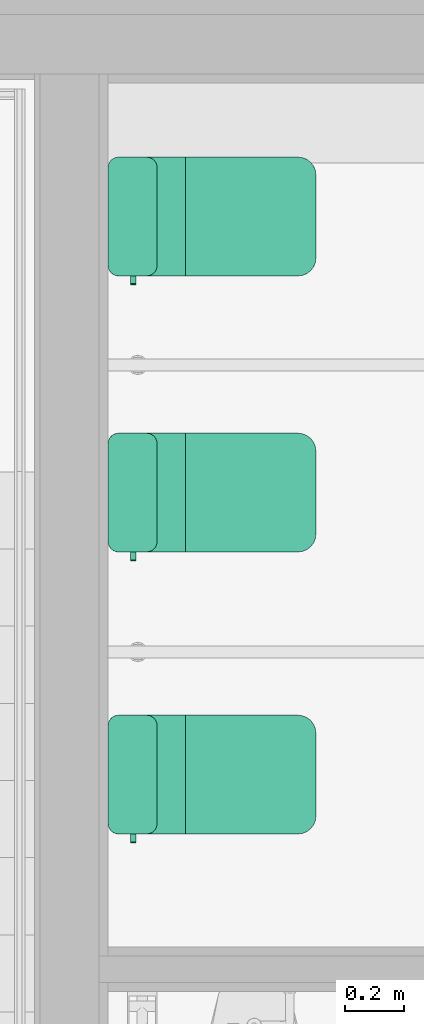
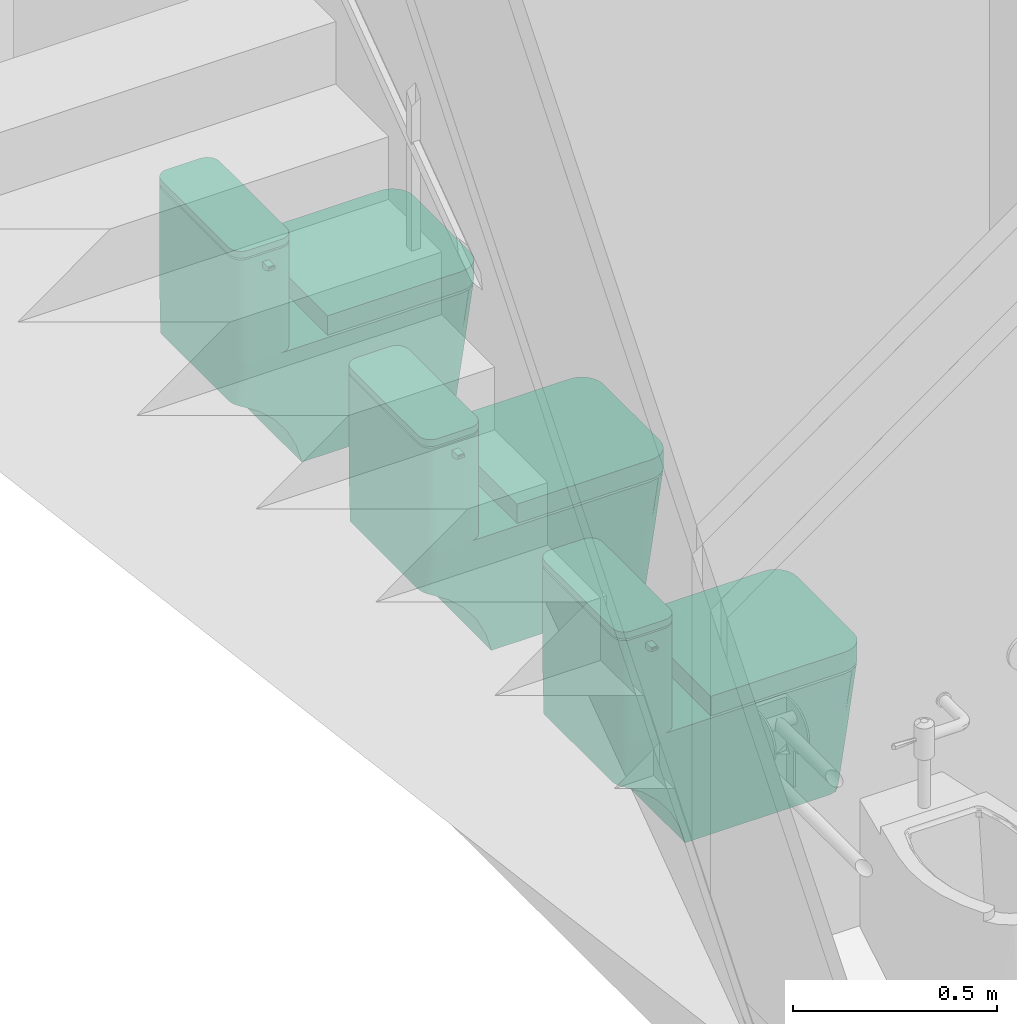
# One storey, part 68 of 74: 3 flow terminals.
"""IFC2X3 building model written with IfcOpenShell, lengths in millimetres."""

import ifcopenshell
import ifcopenshell.guid

model = None  # the IFC model being written
_history = None  # IfcOwnerHistory: only IFC2X3 demands one
_inside = {}  # id of a spatial element -> (the spatial element, [elements in it])
_under = {}  # id of a project, library or spatial element -> (it, [spatial elements below it])
_declared = {}  # id of a project -> (the project, [libraries it declares])
_typed = {}  # id of a type object -> (the type object, [elements of that type])
_made_of = {}  # id of a material, layer set ... -> (it, [elements and type objects made of it])


def new_model(schema):
    """Start an empty IFC model of exactly this schema.

    Asked for "IFC4X3", IfcOpenShell would pick the latest addendum, in which some entities
    have other attributes; the version numbers below select the first issue.
    IFC2X3 requires an IfcOwnerHistory on every rooted entity: one is made here for all.
    """
    global model, _history
    if schema == "IFC4X3":
        model = ifcopenshell.file(schema_version=(4, 3, 0, 0))
    else:
        model = ifcopenshell.file(schema=schema)
    _inside.clear()
    _under.clear()
    _declared.clear()
    _typed.clear()
    _made_of.clear()
    _history = None
    if model.schema == "IFC2X3":
        org = make("IfcOrganization", Name="unknown")
        user = make(
            "IfcPersonAndOrganization",
            ThePerson=make("IfcPerson", FamilyName="unknown"),
            TheOrganization=org,
        )
        app = make(
            "IfcApplication",
            ApplicationDeveloper=org,
            Version="unknown",
            ApplicationFullName="unknown",
            ApplicationIdentifier="unknown",
        )
        _history = make(
            "IfcOwnerHistory",
            OwningUser=user,
            OwningApplication=app,
            ChangeAction="ADDED",
            CreationDate=0,
        )
    return model


def make(cls, **values):
    """One entity of the class cls with the attributes given. An attribute that is None is left unset."""
    return model.create_entity(
        cls, **{name: value for name, value in values.items() if value is not None}
    )


def entity(cls, *values):
    """Any entity or typed value of the class cls, its attributes in the order of the schema. None: left unset."""
    e = model.create_entity(cls)
    for i, value in enumerate(values):
        if value is not None:
            e[i] = value
    return e


def rooted(cls, **values):
    """An entity with a GlobalId (a new one), such as an element, a storey or a relation."""
    return make(cls, GlobalId=ifcopenshell.guid.new(), OwnerHistory=_history, **values)


def si_unit(unit_type, name, prefix=None):
    """IfcSIUnit, for example si_unit("LENGTHUNIT", "METRE", prefix="MILLI")."""
    return make("IfcSIUnit", UnitType=unit_type, Prefix=prefix, Name=name)


def converted_unit(unit_type, name, factor, base, dimensions=None, offset=None):
    """IfcConversionBasedUnit, such as the inch: factor (a typed value) times the base unit."""
    return make(
        "IfcConversionBasedUnit"
        if offset is None
        else "IfcConversionBasedUnitWithOffset",
        ConversionOffset=offset,
        Dimensions=None
        if dimensions is None
        else entity("IfcDimensionalExponents", *dimensions),
        UnitType=unit_type,
        Name=name,
        ConversionFactor=make(
            "IfcMeasureWithUnit", ValueComponent=factor, UnitComponent=base
        ),
    )


def derived_unit(unit_type, elements):
    """IfcDerivedUnit: a product of units, each with its exponent."""
    return make(
        "IfcDerivedUnit",
        Elements=[
            make("IfcDerivedUnitElement", Unit=unit, Exponent=power)
            for unit, power in elements
        ],
        UnitType=unit_type,
    )


def assignment(units):
    """IfcUnitAssignment: the units of a project."""
    return None if units is None else make("IfcUnitAssignment", Units=units)


def point(xyz):
    """IfcCartesianPoint."""
    return None if xyz is None else make("IfcCartesianPoint", Coordinates=xyz)


def direction(xyz):
    """IfcDirection."""
    return None if xyz is None else make("IfcDirection", DirectionRatios=xyz)


def frame(location, z_axis=None, x_axis=None):
    """IfcAxis2Placement3D, a coordinate frame: its origin and axes. An axis left out is left unset."""
    return make(
        "IfcAxis2Placement3D",
        Location=point(location),
        Axis=direction(z_axis),
        RefDirection=direction(x_axis),
    )


def origin():
    """The frame at (0, 0, 0) with its axes left unset."""
    return frame((0.0, 0.0, 0.0))


def place(relative_to, where):
    """IfcLocalPlacement: puts the frame where relative to a parent placement (None: the world)."""
    return make(
        "IfcLocalPlacement", PlacementRelTo=relative_to, RelativePlacement=where
    )


def context(
    kind, dimensions, precision=None, world=None, true_north=None, identifier=None
):
    """IfcGeometricRepresentationContext, for example the 3D "Model" context."""
    return make(
        "IfcGeometricRepresentationContext",
        ContextIdentifier=identifier,
        ContextType=kind,
        CoordinateSpaceDimension=dimensions,
        Precision=precision,
        WorldCoordinateSystem=world,
        TrueNorth=true_north,
    )


def subcontext(parent, identifier, kind, view, scale=None):
    """IfcGeometricRepresentationSubContext, for example "Body" below "Model"."""
    return make(
        "IfcGeometricRepresentationSubContext",
        ContextIdentifier=identifier,
        ContextType=kind,
        ParentContext=parent,
        TargetScale=scale,
        TargetView=view,
    )


def project(units=None, contexts=None):
    """IfcProject with its units and contexts."""
    return rooted(
        "IfcProject",
        Name="project",
        RepresentationContexts=contexts,
        UnitsInContext=assignment(units),
    )


def spatial(cls, under=None, at=None, **own):
    """A site, building, storey or space (cls), placed at a placement, below another one or the project."""
    s = rooted(cls, ObjectPlacement=at, **own)
    if under is not None:
        _under.setdefault(under.id(), (under, []))[1].append(s)
    return s


def faces_of(points, faces, orient=None, outer=None):
    """IfcFace entities. A face is a list of loops; a loop is a list of indices into points, from 0.

    orient and outer hold one flag for each loop. By default every Orientation is true, the
    first loop of a face is its IfcFaceOuterBound and the others are IfcFaceBound.
    """
    made = []
    for i, loops in enumerate(faces):
        bounds = []
        for j, loop in enumerate(loops):
            is_outer = j == 0 if outer is None else outer[i][j]
            bounds.append(
                make(
                    "IfcFaceOuterBound" if is_outer else "IfcFaceBound",
                    Bound=make("IfcPolyLoop", Polygon=[points[k] for k in loop]),
                    Orientation=True if orient is None else orient[i][j],
                )
            )
        made.append(make("IfcFace", Bounds=bounds))
    return made


def faceted_brep(points, faces, orient=None, outer=None, voids=None):
    """IfcFacetedBrep: a solid bounded by flat faces; with voids (closed shells), ...WithVoids."""
    shared = [point(p) for p in points]
    hull = make("IfcClosedShell", CfsFaces=faces_of(shared, faces, orient, outer))
    if voids is None:
        return make("IfcFacetedBrep", Outer=hull)
    return make(
        "IfcFacetedBrepWithVoids",
        Outer=hull,
        Voids=[
            make(cls, CfsFaces=faces_of(shared, fs, o, b)) for cls, fs, o, b in voids
        ],
    )


def shape(context_of_items, identifier, shape_type, items):
    """IfcShapeRepresentation: the items that make up one representation, for example the "Body"."""
    return make(
        "IfcShapeRepresentation",
        ContextOfItems=context_of_items,
        RepresentationIdentifier=identifier,
        RepresentationType=shape_type,
        Items=items,
    )


def source(mapping_origin, context_of_items, identifier, shape_type, items):
    """IfcRepresentationMap: a shape defined once, which mapped items show again and again."""
    return make(
        "IfcRepresentationMap",
        MappingOrigin=mapping_origin,
        MappedRepresentation=shape(context_of_items, identifier, shape_type, items),
    )


def transform(
    local_origin,
    x_axis=None,
    y_axis=None,
    z_axis=None,
    scale=None,
    scale2=None,
    scale3=None,
    uniform=True,
):
    """IfcCartesianTransformationOperator3D, or its non-uniform kind. x_axis, y_axis, z_axis: its Axis1, 2, 3."""
    if uniform:
        return make(
            "IfcCartesianTransformationOperator3D",
            Axis1=direction(x_axis),
            Axis2=direction(y_axis),
            LocalOrigin=point(local_origin),
            Scale=scale,
            Axis3=direction(z_axis),
        )
    return make(
        "IfcCartesianTransformationOperator3DnonUniform",
        Axis1=direction(x_axis),
        Axis2=direction(y_axis),
        LocalOrigin=point(local_origin),
        Scale=scale,
        Axis3=direction(z_axis),
        Scale2=scale2,
        Scale3=scale3,
    )


def mapped(mapping_source, mapping_target):
    """IfcMappedItem: shows the shape of a source again, moved by a transform."""
    return make(
        "IfcMappedItem", MappingSource=mapping_source, MappingTarget=mapping_target
    )


def material(Name=None, Category=None):
    """IfcMaterial."""
    return make("IfcMaterial", Name=Name, Category=Category)


def material_list(materials):
    """IfcMaterialList."""
    return make("IfcMaterialList", Materials=materials)


def made_of(thing, what):
    """Note that an element or type object is made of a material, layer set ...; save() writes the relation."""
    if what is not None:
        _made_of.setdefault(what.id(), (what, []))[1].append(thing)
    return thing


def type_object(cls, material=None, **own):
    """A type object (cls), such as IfcWallType, which elements share."""
    return made_of(rooted(cls, **own), material)


def type_shapes(of_type, sources):
    """Give a type object the sources (RepresentationMaps) that its elements show as mapped items."""
    of_type.RepresentationMaps = sources


def element(
    cls,
    number,
    at=None,
    inside=None,
    cuts=None,
    type_object=None,
    material=None,
    context=None,
    identifier="Body",
    shape_type=None,
    held_by="IfcProductDefinitionShape",
    body=None,
    shapes=None,
    **own,
):
    """One element of the class cls, such as IfcWall. Its Tag is "e" and its number.

    at: its placement. inside: the storey or other place that contains it. cuts: it is an
    opening in that element (IfcRelVoidsElement). A single representation is given by context,
    identifier, shape_type and body (its items); several are given by shapes. held_by: the class
    of the entity that holds the representations. save() writes the other relations.
    """
    e = rooted(cls, Tag="e%d" % number, ObjectPlacement=at, **own)
    if body is not None:
        shapes = [shape(context, identifier, shape_type, body)]
    if shapes is not None:
        e.Representation = make(held_by, Representations=shapes)
    if inside is not None:
        _inside.setdefault(inside.id(), (inside, []))[1].append(e)
    if cuts is not None:
        rooted(
            "IfcRelVoidsElement", RelatingBuildingElement=cuts, RelatedOpeningElement=e
        )
    if type_object is not None:
        _typed.setdefault(type_object.id(), (type_object, []))[1].append(e)
    return made_of(e, material)


def aggregate(whole, parts):
    """IfcRelAggregates: a whole, such as a stair, and the parts it consists of."""
    return rooted("IfcRelAggregates", RelatingObject=whole, RelatedObjects=parts)


def save(model, path):
    """Write the relations noted so far, then the file.

    IfcRelAggregates (storeys below a building ...), IfcRelContainedInSpatialStructure (elements
    in a storey), IfcRelDefinesByType, IfcRelAssociatesMaterial and IfcRelDeclares: one each for
    every whole, place, type object, material and project.
    """
    for whole, parts in _under.values():
        aggregate(whole, parts)
    for where, things in _inside.values():
        rooted(
            "IfcRelContainedInSpatialStructure",
            RelatedElements=things,
            RelatingStructure=where,
        )
    for kind, things in _typed.values():
        rooted("IfcRelDefinesByType", RelatedObjects=things, RelatingType=kind)
    for what, things in _made_of.values():
        rooted("IfcRelAssociatesMaterial", RelatedObjects=things, RelatingMaterial=what)
    for by, libraries in _declared.values():
        rooted("IfcRelDeclares", RelatingContext=by, RelatedDefinitions=libraries)
    model.write(path)


model = new_model("IFC2X3")

# Units and contexts
model_context = context("Model", 3, precision=0.01, world=origin(), true_north=direction((6.123031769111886e-17, 1.0)))
body_context = subcontext(model_context, "Body", "Model", "MODEL_VIEW")
ifc_project = project(units=[si_unit("LENGTHUNIT", "METRE", prefix="MILLI"), si_unit("AREAUNIT", "SQUARE_METRE"), si_unit("VOLUMEUNIT", "CUBIC_METRE"), converted_unit("PLANEANGLEUNIT", "DEGREE", entity("IfcRatioMeasure", 0.017453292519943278), si_unit("PLANEANGLEUNIT", "RADIAN"), dimensions=[0, 0, 0, 0, 0, 0, 0]), si_unit("MASSUNIT", "GRAM", prefix="KILO"), derived_unit("MASSDENSITYUNIT", [(si_unit("MASSUNIT", "GRAM", prefix="KILO"), 1), (si_unit("LENGTHUNIT", "METRE"), -3)]), derived_unit("MOMENTOFINERTIAUNIT", [(si_unit("LENGTHUNIT", "METRE"), 4)]), si_unit("TIMEUNIT", "SECOND"), si_unit("FREQUENCYUNIT", "HERTZ"), si_unit("THERMODYNAMICTEMPERATUREUNIT", "DEGREE_CELSIUS"), derived_unit("THERMALTRANSMITTANCEUNIT", [(si_unit("MASSUNIT", "GRAM", prefix="KILO"), 1), (si_unit("THERMODYNAMICTEMPERATUREUNIT", "KELVIN"), -1), (si_unit("TIMEUNIT", "SECOND"), -3)]), derived_unit("VOLUMETRICFLOWRATEUNIT", [(si_unit("LENGTHUNIT", "METRE"), 3), (si_unit("TIMEUNIT", "SECOND"), -1)]), derived_unit("MASSFLOWRATEUNIT", [(si_unit("MASSUNIT", "GRAM", prefix="KILO"), 1), (si_unit("TIMEUNIT", "SECOND"), -1)]), derived_unit("ROTATIONALFREQUENCYUNIT", [(si_unit("TIMEUNIT", "SECOND"), -1)]), si_unit("ELECTRICCURRENTUNIT", "AMPERE"), si_unit("ELECTRICVOLTAGEUNIT", "VOLT"), si_unit("POWERUNIT", "WATT"), si_unit("FORCEUNIT", "NEWTON", prefix="KILO"), si_unit("ILLUMINANCEUNIT", "LUX"), si_unit("LUMINOUSFLUXUNIT", "LUMEN"), si_unit("LUMINOUSINTENSITYUNIT", "CANDELA"), derived_unit("USERDEFINED", [(si_unit("MASSUNIT", "GRAM", prefix="KILO"), -1), (si_unit("LENGTHUNIT", "METRE"), -2), (si_unit("TIMEUNIT", "SECOND"), 3), (si_unit("LUMINOUSFLUXUNIT", "LUMEN"), 1)]), derived_unit("SOUNDPOWERUNIT", [(si_unit("MASSUNIT", "GRAM", prefix="KILO"), 1), (si_unit("LENGTHUNIT", "METRE"), 2), (si_unit("TIMEUNIT", "SECOND"), -3)]), derived_unit("SOUNDPRESSUREUNIT", [(si_unit("MASSUNIT", "GRAM", prefix="KILO"), 1), (si_unit("LENGTHUNIT", "METRE"), -1), (si_unit("TIMEUNIT", "SECOND"), -2)]), derived_unit("LINEARVELOCITYUNIT", [(si_unit("LENGTHUNIT", "METRE"), 1), (si_unit("TIMEUNIT", "SECOND"), -1)]), si_unit("PRESSUREUNIT", "PASCAL"), derived_unit("USERDEFINED", [(si_unit("LENGTHUNIT", "METRE"), -2), (si_unit("MASSUNIT", "GRAM", prefix="KILO"), 1), (si_unit("TIMEUNIT", "SECOND"), -2)]), derived_unit("LINEARFORCEUNIT", [(si_unit("MASSUNIT", "GRAM", prefix="KILO"), 1), (si_unit("LENGTHUNIT", "METRE"), 1), (si_unit("TIMEUNIT", "SECOND"), -2), (si_unit("LENGTHUNIT", "METRE"), -1)]), derived_unit("PLANARFORCEUNIT", [(si_unit("MASSUNIT", "GRAM", prefix="KILO"), 1), (si_unit("LENGTHUNIT", "METRE"), 1), (si_unit("TIMEUNIT", "SECOND"), -2), (si_unit("LENGTHUNIT", "METRE"), -2)])], contexts=[model_context])

# Site, building, storey, space
site_placement = place(None, frame((-14167.972527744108, -657.2125860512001, 0.0)))
site = spatial("IfcSite", under=ifc_project, at=site_placement, Name="Default", CompositionType="ELEMENT")
building_placement = place(site_placement, origin())
building = spatial("IfcBuilding", under=site, at=building_placement, Name="Sample Building", CompositionType="ELEMENT")
storey_placement = place(building_placement, frame((0.0, 0.0, 4800.0)))
storey = spatial("IfcBuildingStorey", under=building, at=storey_placement, Name="지상 2층", CompositionType="ELEMENT", Elevation=4800.000000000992)
space_placement = place(storey_placement, origin())
space = spatial("IfcSpace", under=storey, at=space_placement, Name="188", CompositionType="ELEMENT", InteriorOrExteriorSpace="INTERNAL")

# Flow terminals
ifc_material_1 = material(Name="KBIMS-스테인리스 스틸_도금")
ifc_material_2 = material(Name="KBIMS-도기")
ifc_material_list_1 = material_list([ifc_material_1, ifc_material_2, ifc_material_2])
ifc_material_list_2 = material_list([ifc_material_1, ifc_material_2, ifc_material_2])
distribution_element_type = type_object("IfcDistributionElementType", Name="PF127-서양식 탱크일체형:PF127-서양식 탱크일체형", material=ifc_material_list_2)
shared_shape = source(origin(), body_context, "Body", "Brep", [
    faceted_brep([(-200.0, -93.78427766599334, 671.547634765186), (-226.3198216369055, -93.78427766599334, 671.5476347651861), (-228.9221007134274, -93.78427766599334, 670.469735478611), (-230.0, -93.78427766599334, 667.8674564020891), (-230.0, -93.78427766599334, 663.5153317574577), (-229.51628854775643, -93.78427766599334, 661.8557929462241), (-228.21666089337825, -93.78427766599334, 660.71605008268), (-215.9758797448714, -93.78427766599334, 655.0080800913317), (-211.766557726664, -93.78427766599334, 653.5792078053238), (-207.34774888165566, -93.78427766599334, 653.095269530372), (-200.0, -93.78427766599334, 653.095269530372), (-230.0, -75.66503821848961, 663.5153317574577), (-230.0, -75.66503821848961, 667.8674564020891), (-228.9221007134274, -75.66503821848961, 670.469735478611), (-226.31982163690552, -75.66503821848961, 671.5476347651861), (-200.0, -75.66503821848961, 671.547634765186), (-200.0, -75.66503821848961, 653.095269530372), (-207.34774888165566, -75.66503821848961, 653.095269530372), (-211.766557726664, -75.66503821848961, 653.5792078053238), (-215.97587974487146, -75.66503821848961, 655.0080800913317), (-228.21666089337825, -75.66503821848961, 660.71605008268), (-229.51628854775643, -75.66503821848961, 661.8557929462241)], [[[0, 1, 2, 3, 4, 5, 6, 7, 8, 9, 10]], [[11, 12, 13, 14, 15, 16, 17, 18, 19, 20, 21]], [[1, 14, 13, 2]], [[13, 12, 3, 2]], [[4, 3, 12, 11]], [[4, 11, 21, 5]], [[21, 20, 6, 5]], [[7, 6, 20, 19]], [[7, 19, 18, 8]], [[18, 17, 9, 8]], [[10, 9, 17, 16]], [[0, 10, 16, 15]], [[1, 0, 15, 14]]]),
    faceted_brep([(140.0, -700.0, 445.0), (155.52914270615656, -697.9555495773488, 445.0), (170.0, -691.9615242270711, 445.0), (182.42640687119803, -682.4264068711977, 445.0), (191.96152422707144, -670.0, 445.0), (197.9555495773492, -655.5291427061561, 445.0), (200.0, -640.0, 445.0), (200.0, -260.0, 445.0), (-200.0, -260.0, 445.0), (-200.0, -640.0, 445.0), (-197.95554957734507, -655.5291427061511, 445.0), (-191.96152422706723, -670.0, 445.0), (-182.42640687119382, -682.4264068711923, 445.0), (-170.0, -691.9615242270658, 445.0), (-155.52914270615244, -697.9555495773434, 445.0), (-140.0, -700.0, 445.0), (-200.0, -640.0, 386.96747142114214), (-200.0, -260.0, 386.96747142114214), (200.0, -260.0, 386.96747142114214), (200.0, -640.0, 386.96747142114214), (197.9555495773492, -655.5291427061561, 386.96747142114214), (191.96152422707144, -670.0, 386.96747142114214), (182.42640687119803, -682.4264068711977, 386.96747142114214), (170.0, -691.9615242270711, 386.96747142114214), (155.52914270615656, -697.9555495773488, 386.96747142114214), (140.0, -700.0, 386.96747142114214), (-140.0, -700.0, 386.96747142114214), (-155.52914270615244, -697.9555495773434, 386.96747142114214), (-170.0, -691.9615242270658, 386.96747142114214), (-182.42640687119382, -682.4264068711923, 386.96747142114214), (-191.96152422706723, -670.0, 386.96747142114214), (-197.95554957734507, -655.5291427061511, 386.96747142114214)], [[[0, 1, 2, 3, 4, 5, 6, 7, 8, 9, 10, 11, 12, 13, 14, 15]], [[16, 17, 18, 19, 20, 21, 22, 23, 24, 25, 26, 27, 28, 29, 30, 31]], [[1, 24, 23, 2]], [[2, 23, 22, 3]], [[25, 24, 1, 0]], [[4, 21, 20, 5]], [[5, 20, 19, 6]], [[3, 22, 21, 4]], [[7, 6, 19, 18]], [[8, 7, 18, 17]], [[9, 8, 17, 16]], [[10, 31, 30, 11]], [[11, 30, 29, 12]], [[9, 16, 31, 10]], [[13, 28, 27, 14]], [[14, 27, 26, 15]], [[12, 29, 28, 13]], [[0, 15, 26, 25]]]),
    faceted_brep([(165.0, 0.0, 694.4321747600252), (165.0, 0.0, 380.0), (164.13685378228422, 0.0, 314.40088745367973), (163.42105263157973, 0.0, 260.0), (-163.42105263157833, 0.0, 260.0), (-164.1368541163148, 0.0, 314.40091283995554), (-165.0, 0.0, 380.0), (-165.0, 0.0, 694.4321747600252), (-165.0, 0.0, 720.0), (165.0, 0.0, 720.0), (165.0, 0.0, 699.4321747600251), (-165.0, 0.0, 699.4321747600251), (200.0, -35.0, 694.4321747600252), (200.0, -130.0, 694.4321747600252), (200.0, -130.0, 380.0), (200.0, -35.0, 380.0), (200.0, -35.0, 720.0), (200.0, -130.0, 720.0), (200.0, -130.0, 699.4321747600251), (200.0, -35.0, 699.4321747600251), (-198.80740392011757, -139.05866657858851, 694.4321747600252), (-198.80740392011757, -139.0586665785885, 380.0), (-195.31088913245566, -147.5000000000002, 380.0), (-195.31088913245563, -147.50000000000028, 694.4321747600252), (-198.80740392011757, -139.05866657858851, 699.4321747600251), (-195.31088913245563, -147.50000000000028, 699.4321747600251), (-195.3108891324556, -147.50000000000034, 720.0), (-198.80740392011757, -139.05866657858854, 720.0), (-189.74873734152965, -154.74873734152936, 380.0), (-189.74873734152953, -154.74873734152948, 694.4321747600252), (-189.74873734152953, -154.74873734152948, 699.4321747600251), (-189.74873734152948, -154.74873734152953, 720.0), (-200.0, -130.0, 380.0), (-200.0, -130.0, 694.4321747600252), (-200.0, -130.0, 699.4321747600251), (-200.0, -130.0, 720.0), (-182.5000000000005, -160.31088913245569, 694.4321747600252), (-182.50000000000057, -160.31088913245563, 380.0), (-174.05866657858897, -163.80740392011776, 380.0), (-174.05866657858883, -163.8074039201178, 694.4321747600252), (-174.05866657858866, -163.80740392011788, 720.0), (-182.50000000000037, -160.31088913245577, 720.0), (-182.5000000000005, -160.31088913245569, 699.4321747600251), (-174.05866657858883, -163.8074039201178, 699.4321747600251), (-165.0, -165.0, 380.0), (-165.0, -165.0, 694.4321747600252), (-165.0, -165.0, 720.0), (-165.0, -165.0, 699.4321747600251), (165.0, -165.0, 694.4321747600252), (165.0, -165.0, 380.0), (165.0, -165.0, 720.0), (165.0, -165.0, 699.4321747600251), (-200.0, -35.0, 694.4321747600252), (-200.0, -35.0, 380.0), (-200.0, -35.0, 720.0), (-200.0, -35.0, 699.4321747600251), (198.80740392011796, -25.941333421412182, 699.4321747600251), (195.310889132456, -17.500000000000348, 699.4321747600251), (195.31088913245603, -17.500000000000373, 720.0), (198.80740392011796, -25.94133342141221, 720.0), (189.74873734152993, -10.251262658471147, 720.0), (189.74873734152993, -10.251262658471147, 699.4321747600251), (174.05866657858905, -1.1925960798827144, 699.4321747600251), (174.0586665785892, -1.192596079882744, 720.0), (182.50000000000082, -4.68911086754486, 699.4321747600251), (182.50000000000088, -4.68911086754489, 720.0), (174.05866657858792, -163.80740392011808, 694.4321747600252), (174.05866657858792, -163.80740392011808, 380.0), (182.49999999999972, -160.31088913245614, 380.0), (182.49999999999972, -160.31088913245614, 694.4321747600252), (174.05866657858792, -163.80740392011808, 699.4321747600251), (182.49999999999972, -160.31088913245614, 699.4321747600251), (182.5000000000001, -160.31088913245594, 720.0), (174.0586665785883, -163.80740392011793, 720.0), (189.74873734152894, -154.74873734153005, 380.0), (189.74873734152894, -154.74873734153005, 694.4321747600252), (189.74873734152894, -154.74873734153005, 699.4321747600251), (189.74873734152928, -154.74873734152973, 720.0), (195.31088913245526, -147.50000000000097, 694.4321747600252), (195.31088913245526, -147.50000000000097, 380.0), (198.8074039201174, -139.05866657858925, 380.0), (198.8074039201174, -139.05866657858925, 694.4321747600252), (195.31088913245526, -147.50000000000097, 699.4321747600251), (198.8074039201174, -139.05866657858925, 699.4321747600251), (198.80740392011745, -139.0586665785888, 720.0), (195.3108891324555, -147.50000000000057, 720.0), (-174.0586665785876, -1.1925960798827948, 720.0), (-174.0586665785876, -1.1925960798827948, 699.4321747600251), (-182.49999999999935, -4.689110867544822, 720.0), (-182.49999999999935, -4.689110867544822, 699.4321747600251), (-189.7487373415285, -10.251262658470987, 720.0), (-189.7487373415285, -10.251262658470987, 699.4321747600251), (-198.8074039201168, -25.941333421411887, 720.0), (-195.31088913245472, -17.50000000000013, 720.0), (-195.31088913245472, -17.50000000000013, 699.4321747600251), (-198.8074039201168, -25.941333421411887, 699.4321747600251), (-174.0586665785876, -1.192596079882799, 694.4321747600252), (-171.07672145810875, -0.5315585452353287, 380.0), (-176.96898132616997, -2.1101309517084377, 380.0), (-182.49999999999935, -4.689110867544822, 694.4321747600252), (-182.49783433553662, -4.687860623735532, 380.0), (-187.49533036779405, -8.18656844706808, 380.0), (-189.7487373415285, -10.251262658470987, 694.4321747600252), (-195.31088913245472, -17.50000000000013, 694.4321747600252), (-195.3094689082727, -17.4975403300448, 380.0), (-197.88846700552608, -23.02716666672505, 380.0), (-198.8074039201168, -25.941333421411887, 694.4321747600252), (-199.4680424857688, -28.921015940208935, 380.0), (-191.8095995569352, -12.500102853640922, 380.0), (198.80740392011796, -25.941333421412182, 694.4321747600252), (199.46810048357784, -28.92134479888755, 380.0), (197.88863680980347, -23.02763311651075, 380.0), (195.310889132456, -17.500000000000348, 694.4321747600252), (195.3097905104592, -17.498097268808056, 380.0), (191.81007551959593, -12.500669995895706, 380.0), (189.74873734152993, -10.251262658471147, 694.4321747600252), (182.50000000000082, -4.68911086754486, 694.4321747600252), (182.49858765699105, -4.6882954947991, 380.0), (176.9698186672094, -2.110435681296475, 380.0), (171.0775985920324, -0.5317131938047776, 380.0), (174.05866657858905, -1.1925960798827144, 694.4321747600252), (187.49595914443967, -8.187095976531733, 380.0), (160.0, -210.0, 0.0), (160.0, -620.0, 0.0), (156.6733983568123, -632.4150463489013, 0.0), (154.64101615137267, -640.0, 0.0), (147.3205080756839, -647.3205080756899, 0.0), (140.0, -654.6410161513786, 0.0), (132.41504577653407, -656.673398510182, 0.0), (120.0, -660.0, 0.0), (-120.0, -660.0, 0.0), (-132.4150463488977, -656.6733983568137, 0.0), (-140.0, -654.6410161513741, 0.0), (-147.32050807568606, -647.3205080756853, 0.0), (-154.64101615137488, -640.0, 0.0), (-156.67339851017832, -632.4150457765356, 0.0), (-160.0, -620.0, 0.0), (-160.0, -210.0, 0.0), (-200.0, -640.0, 380.0), (-197.71638597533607, -651.4805029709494, 380.0), (-195.43277195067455, -662.961005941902, 380.0), (-188.92958941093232, -672.6937064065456, 380.0), (-182.42640687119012, -682.4264068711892, 380.0), (-172.69370640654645, -688.9295894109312, 380.0), (-162.96100594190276, -695.4327719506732, 380.0), (-151.48050297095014, -697.7163859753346, 380.0), (-140.0, -700.0, 380.0), (140.0, -700.0, 380.0), (151.4805029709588, -697.7163859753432, 380.0), (162.9610059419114, -695.4327719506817, 380.0), (172.69370640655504, -688.9295894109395, 380.0), (182.42640687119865, -682.4264068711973, 380.0), (188.9295894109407, -672.6937064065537, 380.0), (195.4327719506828, -662.96100594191, 380.0), (197.7163859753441, -651.4805029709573, 380.0), (200.0, -640.0, 380.0), (181.88767422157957, -630.9438371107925, 207.93290510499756), (169.05616288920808, -624.5280814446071, 86.03354744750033), (166.41215116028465, -190.4623972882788, 60.91543602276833), (172.39104658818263, -161.03070825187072, 117.71494258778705), (177.76891724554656, -122.53079215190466, 168.80471383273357), (182.39485897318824, -76.04296457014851, 212.75116024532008), (186.13906689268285, -22.871683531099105, 248.32113548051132), (193.0948286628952, -28.957975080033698, 314.4008722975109), (184.4509041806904, -13.399793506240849, 253.3937042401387), (192.48236559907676, -21.712362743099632, 318.068486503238), (185.85897664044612, -18.078391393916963, 250.93098822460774), (169.4535256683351, -0.47508644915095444, 318.71364296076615), (176.81269594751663, -2.7853559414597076, 322.8232335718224), (184.85554366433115, -8.564241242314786, 317.5126549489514), (188.64536552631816, -13.805323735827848, 311.79954638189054), (181.93237214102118, -9.070973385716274, 255.5993773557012), (168.85282113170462, -0.6257823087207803, 259.7058617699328), (178.3784036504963, -5.339995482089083, 257.4452533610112), (173.94033185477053, -2.453774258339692, 258.83869964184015), (-193.09483031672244, -28.957976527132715, 314.4008880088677), (-192.48224700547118, -21.712007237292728, 318.06820833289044), (-185.85897664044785, -18.07839139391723, 250.93098822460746), (-169.4535400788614, -0.47508841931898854, 318.7138102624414), (-188.64533012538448, -13.805305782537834, 311.79916939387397), (-184.4509041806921, -13.399793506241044, 253.39370424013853), (-184.85525539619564, -8.563839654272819, 317.5148648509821), (-178.37840365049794, -5.3399954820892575, 257.44525336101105), (-181.93237214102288, -9.070973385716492, 255.59937735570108), (-186.13906689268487, -22.87168353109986, 248.32113548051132), (-176.81199260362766, -2.7850356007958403, 322.8227486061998), (-173.9403318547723, -2.4537742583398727, 258.8386996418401), (-168.85282113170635, -0.6257823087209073, 259.70586176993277), (-182.39485897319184, -76.04296457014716, 212.75116024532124), (-177.7689172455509, -122.53079215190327, 168.8047138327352), (-172.3910465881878, -161.03070825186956, 117.71494258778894), (-166.4121511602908, -190.46239728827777, 60.9154360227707), (-170.9438402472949, -625.4719201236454, 103.96648234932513), (-181.88767486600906, -630.9438374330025, 207.932911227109), (167.84723921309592, -644.8835703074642, 113.26853664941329), (182.70359618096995, -650.4613144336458, 244.34084888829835), (172.7916320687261, -658.8131569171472, 202.6373284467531), (163.28959461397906, -663.2895949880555, 167.00838556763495), (161.3612464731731, -651.454814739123, 94.73545488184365), (130.94384024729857, -681.8876804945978, 207.93296469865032), (137.1466297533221, -675.5797921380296, 155.949684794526), (142.81243148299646, -686.5857660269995, 259.99216222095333), (174.39327642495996, -671.2588406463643, 273.5041922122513), (151.45063444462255, -661.3663368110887, 94.74858838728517), (144.3377504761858, -669.7672265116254, 125.97246068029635), (152.4807217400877, -683.0768420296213, 253.0686677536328), (158.81315653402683, -672.7916326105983, 202.63733033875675), (125.47192012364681, -670.9438402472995, 103.96648234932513), (169.1268939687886, -634.5961485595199, 96.37357614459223), (-130.94383711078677, -681.8876742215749, 207.93290510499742), (-124.52808144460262, -669.056162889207, 86.03354744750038), (-144.88357030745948, -667.8472392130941, 113.26853664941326), (-150.46131443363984, -682.7035961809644, 244.34084888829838), (-158.8131569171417, -672.7916320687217, 202.6373284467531), (-163.28959498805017, -663.2895946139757, 167.00838556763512), (-151.4548147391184, -661.3612464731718, 94.73545488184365), (-175.57979213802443, -637.1466297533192, 155.94968479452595), (-186.58576602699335, -642.8124314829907, 259.99216222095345), (-171.25884064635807, -674.3932764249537, 273.50419221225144), (-161.36633681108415, -651.4506344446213, 94.74858838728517), (-169.76722651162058, -644.3377504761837, 125.97246068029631), (-172.79163261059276, -658.8131565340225, 202.63733033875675), (-134.5961485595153, -669.1268939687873, 96.37357614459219), (-183.07684202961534, -652.480721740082, 253.06866775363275), (-185.0, -150.0, 699.4321747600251), (-185.0, -15.0, 699.4321747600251), (-185.0, -15.0, 694.4321747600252), (-185.0, -150.0, 694.4321747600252), (185.0, -150.0, 699.4321747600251), (185.0, -150.0, 694.4321747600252), (185.0, -15.0, 699.4321747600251), (185.0, -15.0, 694.4321747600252)], [[[0, 1, 2, 3, 4, 5, 6, 7]], [[8, 9, 10, 11]], [[12, 13, 14, 15]], [[16, 17, 18, 19]], [[20, 21, 22, 23]], [[24, 25, 26, 27]], [[23, 22, 28, 29]], [[25, 30, 31, 26]], [[32, 21, 20, 33]], [[34, 24, 27, 35]], [[36, 37, 38, 39]], [[40, 41, 42, 43]], [[39, 38, 44, 45]], [[46, 40, 43, 47]], [[29, 28, 37, 36]], [[30, 42, 41, 31]], [[48, 45, 44, 49]], [[50, 46, 47, 51]], [[33, 52, 53, 32]], [[35, 54, 55, 34]], [[56, 57, 58, 59]], [[19, 56, 59, 16]], [[60, 58, 57, 61]], [[62, 10, 9, 63]], [[64, 62, 63, 65]], [[61, 64, 65, 60]], [[66, 67, 68, 69]], [[70, 71, 72, 73]], [[69, 68, 74, 75]], [[71, 76, 77, 72]], [[49, 67, 66, 48]], [[51, 70, 73, 50]], [[78, 79, 80, 81]], [[82, 83, 84, 85]], [[81, 80, 14, 13]], [[83, 18, 17, 84]], [[75, 74, 79, 78]], [[76, 82, 85, 77]], [[86, 8, 11, 87]], [[88, 86, 87, 89]], [[90, 88, 89, 91]], [[92, 93, 94, 95]], [[54, 92, 95, 55]], [[91, 94, 93, 90]], [[9, 8, 86, 88, 90, 93, 92, 54, 35, 27, 26, 31, 41, 40, 46, 50, 73, 72, 77, 85, 84, 17, 16, 59, 58, 60, 65, 63]], [[96, 97, 98]], [[99, 98, 100]], [[99, 100, 101]], [[6, 97, 7]], [[7, 97, 96]], [[98, 99, 96]], [[101, 102, 99]], [[103, 104, 105]], [[106, 105, 107]], [[52, 107, 53]], [[102, 108, 103]], [[108, 102, 101]], [[104, 103, 108]], [[105, 106, 103]], [[107, 52, 106]], [[109, 110, 111]], [[112, 111, 113]], [[112, 113, 114]], [[15, 110, 12]], [[12, 110, 109]], [[111, 112, 109]], [[114, 115, 112]], [[116, 117, 118]], [[118, 119, 120]], [[1, 0, 119]], [[115, 121, 116]], [[121, 115, 114]], [[117, 116, 121]], [[118, 120, 116]], [[119, 0, 120]], [[122, 123, 124, 125, 126, 127, 128, 129, 130, 131, 132, 133, 134, 135, 136, 137]], [[21, 32, 138, 139, 140, 141, 142, 143, 144, 145, 146, 147, 148, 149, 150, 151, 152, 153, 154, 155, 14, 80, 79, 74, 68, 67, 49, 44, 38, 37, 28, 22]], [[14, 155, 156, 157, 123, 122, 158, 159, 160, 161, 162, 163, 15]], [[164, 165, 166]], [[1, 119, 167]], [[118, 117, 168]], [[169, 170, 171]], [[121, 169, 168]], [[117, 121, 168]], [[2, 1, 167, 3]], [[170, 114, 113]], [[172, 167, 168]], [[110, 15, 163]], [[173, 174, 168]], [[171, 173, 169]], [[114, 169, 121]], [[111, 165, 170]], [[111, 110, 165]], [[3, 167, 172]], [[165, 163, 166]], [[168, 169, 173]], [[169, 114, 170]], [[172, 168, 174]], [[171, 170, 164]], [[164, 170, 165]], [[168, 167, 118]], [[166, 163, 162]], [[163, 165, 110]], [[167, 119, 118]], [[170, 113, 111]], [[175, 176, 177]], [[98, 97, 178]], [[176, 105, 179]], [[176, 179, 180]], [[108, 181, 179]], [[182, 183, 181]], [[175, 107, 176]], [[6, 5, 4, 178]], [[184, 175, 177]], [[176, 180, 177]], [[182, 185, 186]], [[179, 183, 180]], [[105, 104, 179]], [[101, 181, 108]], [[185, 100, 98]], [[185, 98, 178]], [[185, 178, 187]], [[97, 6, 178]], [[101, 100, 185]], [[181, 101, 185]], [[107, 105, 176]], [[185, 182, 181]], [[185, 187, 186]], [[175, 53, 107]], [[178, 4, 187]], [[181, 183, 179]], [[179, 104, 108]], [[138, 32, 53, 175, 184, 188, 189, 190, 191, 137, 136, 192, 193]], [[194, 195, 196]], [[197, 126, 198]], [[199, 200, 201]], [[156, 154, 195]], [[202, 152, 151]], [[196, 152, 202]], [[127, 203, 204]], [[194, 198, 125]], [[150, 205, 206]], [[203, 206, 204]], [[124, 194, 125]], [[198, 194, 196]], [[200, 199, 207]], [[123, 157, 156, 208]], [[194, 124, 208]], [[206, 197, 202]], [[194, 208, 195]], [[150, 202, 151]], [[156, 195, 208]], [[123, 208, 124]], [[126, 197, 203]], [[197, 198, 196]], [[126, 125, 198]], [[202, 197, 196]], [[197, 206, 203]], [[127, 204, 128]], [[126, 203, 127]], [[206, 205, 204]], [[202, 150, 206]], [[128, 204, 200]], [[195, 152, 196]], [[148, 205, 149]], [[152, 195, 153]], [[205, 148, 201]], [[128, 200, 207]], [[205, 201, 200]], [[129, 128, 207]], [[205, 200, 204]], [[147, 199, 201]], [[154, 156, 155]], [[154, 153, 195]], [[149, 205, 150]], [[148, 147, 201]], [[146, 209, 210, 130, 129, 207, 199, 147]], [[211, 212, 213]], [[214, 133, 215]], [[193, 216, 217]], [[209, 145, 212]], [[218, 143, 142]], [[213, 143, 218]], [[134, 219, 220]], [[211, 215, 132]], [[142, 141, 218]], [[219, 221, 220]], [[131, 211, 132]], [[215, 211, 213]], [[216, 193, 192]], [[130, 210, 209, 222]], [[211, 131, 222]], [[221, 214, 218]], [[211, 222, 212]], [[218, 141, 221]], [[209, 212, 222]], [[130, 222, 131]], [[133, 214, 219]], [[214, 215, 213]], [[133, 132, 215]], [[218, 214, 213]], [[214, 221, 219]], [[134, 220, 135]], [[133, 219, 134]], [[221, 223, 220]], [[141, 223, 221]], [[135, 220, 216]], [[212, 143, 213]], [[223, 141, 140]], [[143, 212, 144]], [[223, 139, 217]], [[135, 216, 192]], [[223, 217, 216]], [[136, 135, 192]], [[223, 216, 220]], [[138, 193, 217]], [[145, 209, 146]], [[145, 144, 212]], [[139, 223, 140]], [[139, 138, 217]], [[186, 187, 4]], [[182, 186, 4]], [[4, 180, 183]], [[182, 4, 183]], [[4, 3, 162, 184]], [[172, 174, 3]], [[173, 3, 174]], [[171, 3, 173]], [[164, 3, 171]], [[164, 166, 3]], [[162, 3, 166]], [[177, 180, 4]], [[184, 162, 161, 188]], [[190, 189, 160, 159]], [[160, 189, 188, 161]], [[191, 190, 159, 158]], [[191, 158, 122, 137]], [[177, 4, 184]], [[224, 225, 226, 227]], [[228, 224, 227, 229]], [[230, 228, 229, 231]], [[225, 230, 231, 226]], [[78, 81, 229]], [[229, 75, 78]], [[81, 13, 229]], [[231, 229, 13]], [[13, 12, 231]], [[12, 109, 231]], [[231, 109, 112]], [[112, 115, 231]], [[115, 116, 231]], [[120, 231, 116]], [[231, 120, 0]], [[231, 0, 226]], [[226, 0, 7]], [[226, 7, 96]], [[96, 99, 226]], [[102, 226, 99]], [[103, 226, 102]], [[226, 103, 106]], [[106, 52, 226]], [[33, 226, 52]], [[33, 227, 226]], [[20, 227, 33]], [[23, 227, 20]], [[29, 227, 23]], [[29, 36, 227]], [[39, 227, 36]], [[227, 39, 45]], [[48, 227, 45]], [[229, 48, 66]], [[48, 229, 227]], [[66, 69, 229]], [[75, 229, 69]], [[57, 56, 230]], [[230, 61, 57]], [[56, 19, 230]], [[228, 230, 19]], [[19, 18, 228]], [[18, 83, 228]], [[228, 83, 82]], [[82, 76, 228]], [[76, 71, 228]], [[70, 228, 71]], [[228, 70, 51]], [[224, 228, 51]], [[51, 47, 224]], [[224, 47, 43]], [[43, 42, 224]], [[30, 224, 42]], [[25, 224, 30]], [[224, 25, 24]], [[24, 34, 224]], [[55, 224, 34]], [[55, 225, 224]], [[95, 225, 55]], [[94, 225, 95]], [[91, 225, 94]], [[91, 89, 225]], [[87, 225, 89]], [[225, 87, 11]], [[10, 225, 11]], [[230, 10, 62]], [[230, 225, 10]], [[62, 64, 230]], [[61, 230, 64]]]),
])
type_shapes(distribution_element_type, [shared_shape])
flow_terminal_1_placement = place(space_placement, frame((33097.96375501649, 27477.212300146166, 0.0), z_axis=(0.0, 0.0, 1.0), x_axis=(0.0, 1.0, 0.0)))
element("IfcFlowTerminal", 1, at=flow_terminal_1_placement, inside=space, type_object=distribution_element_type, material=ifc_material_list_1, Name="PF127-서양식 탱크일체형:PF127-서양식 탱크일체형", ObjectType="PF127-서양식 탱크일체형:PF127-서양식 탱크일체형", context=body_context, shape_type="MappedRepresentation", body=[
    mapped(shared_shape, transform((0.0, 0.0, 0.0), scale=1.0)),
])
ifc_material_list_3 = material_list([ifc_material_1, ifc_material_2])
flow_terminal_2_placement = place(space_placement, frame((33097.96375501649, 26547.21230014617, 0.0), z_axis=(0.0, 0.0, 1.0), x_axis=(0.0, 1.0, 0.0)))
element("IfcFlowTerminal", 2, at=flow_terminal_2_placement, inside=space, type_object=distribution_element_type, material=ifc_material_list_3, Name="PF127-서양식 탱크일체형:PF127-서양식 탱크일체형", ObjectType="PF127-서양식 탱크일체형:PF127-서양식 탱크일체형", context=body_context, shape_type="MappedRepresentation", body=[
    mapped(shared_shape, transform((0.0, 0.0, 0.0), scale=1.0)),
])
ifc_material_list_4 = material_list([ifc_material_1, ifc_material_2])
flow_terminal_3_placement = place(space_placement, frame((33097.96366479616, 25597.212300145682, 0.0), z_axis=(0.0, 0.0, 1.0), x_axis=(0.0, 1.0, 0.0)))
element("IfcFlowTerminal", 3, at=flow_terminal_3_placement, inside=space, type_object=distribution_element_type, material=ifc_material_list_4, Name="PF127-서양식 탱크일체형:PF127-서양식 탱크일체형", ObjectType="PF127-서양식 탱크일체형:PF127-서양식 탱크일체형", context=body_context, shape_type="MappedRepresentation", body=[
    mapped(shared_shape, transform((0.0, 0.0, 0.0), scale=1.0)),
])

save(model, "model.ifc")
